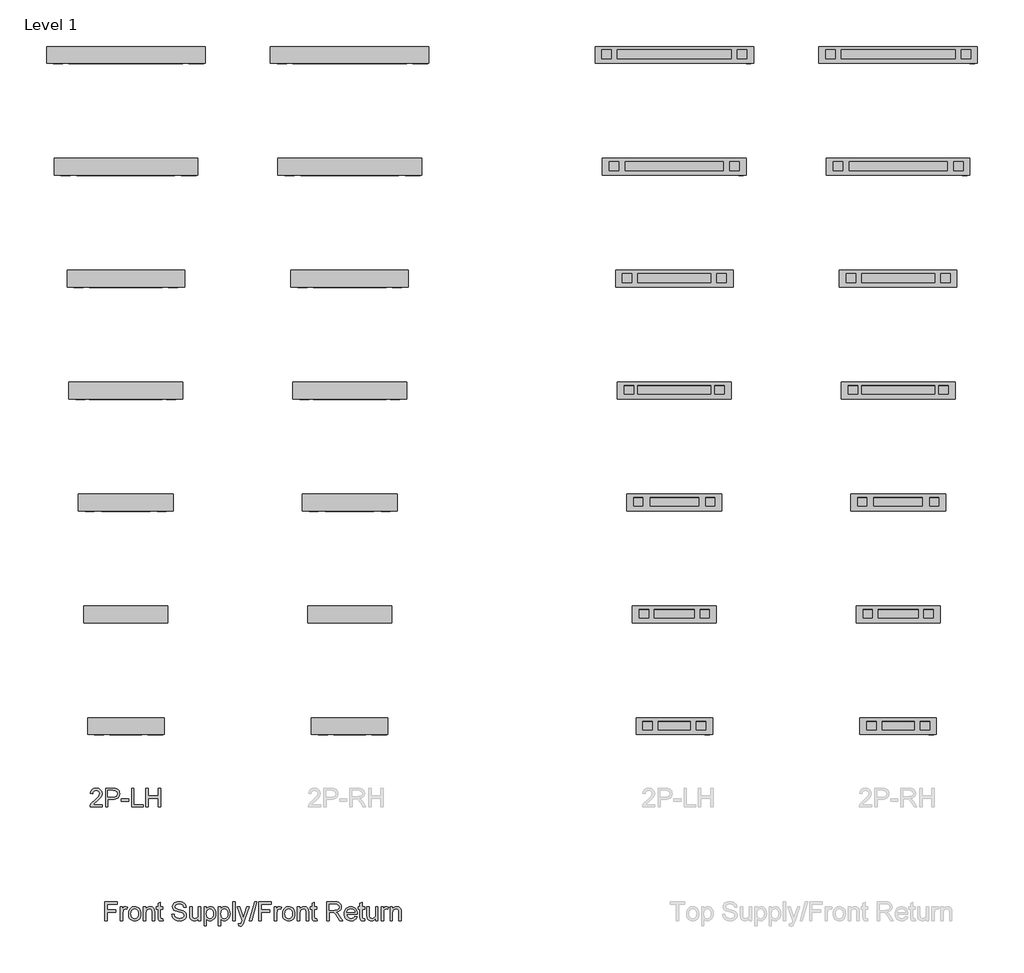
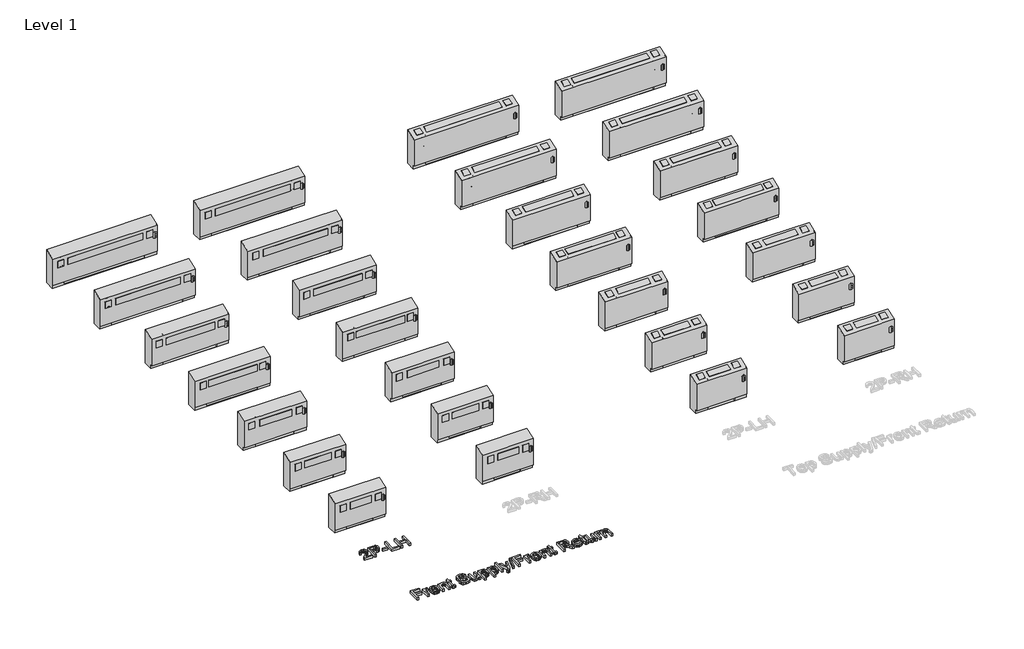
# One storey, part 1 of 2: 30 proxies.
"""IFC4 building model written with IfcOpenShell, lengths in millimetres."""

from ifc_helpers import new_model, si_unit, origin, origin_with_axes, place, context, project, spatial, polyline, outline, extrude, transform, mapped, element, save
from components import gsy_02_40d96003, gsy_02_d2016dfe, gsy_02_22f8a827, gsy_02_18074718, gsy_03_e8b588e9, gsy_03_2a40df72, gsy_03_d9d8826f, gsy_03_0272344f, gsy_04_6afe9540, gsy_04_bbb608ca, gsy_04_33b4b88a, gsy_04_61f203fc, gsy_06_d914853d, gsy_06_2d0563a4, gsy_06_7a3696df, gsy_06_8a783c55, gsy_08_512bcfd8, gsy_08_a798d953, gsy_08_d9f7d4bb, gsy_08_f1128186, gsy_10_ef9cb39d, gsy_10_e4929abb, gsy_10_18e08ca5, gsy_10_3fce5a1d, gsy_12_3b809d4b, gsy_12_c2b4ca95, gsy_12_80c8aa1c, gsy_12_d7ed669c

model = new_model("IFC4")

# Units and contexts
model_context = context("Model", 3, world=origin())
ifc_project = project(units=[si_unit("LENGTHUNIT", "METRE", prefix="MILLI")], contexts=[model_context])

# Site, building, storey
site = spatial("IfcSite", under=ifc_project)
building = spatial("IfcBuilding", under=site)
storey = spatial("IfcBuildingStorey", under=building, Name="Level 1", Elevation=0.0)

# Proxies
placement = place(None, origin())
element("IfcBuildingElementProxy", 1, Name="24\" Arial", ObjectType="24\" Arial", at=placement, inside=storey, context=model_context, shape_type="SweptSolid", body=[
    extrude(outline(polyline([(-19722.253563, -2284.938898), (-19722.253563, -2316.8337764), (-19889.701675, -2316.8337764), (-19886.2754673, -2294.8437528), (-19878.4107634, -2277.6582067), (-19866.9018205, -2260.9865918), (-19826.9709277, -2224.0146965), (-19792.5531145, -2193.4435801), (-19771.9024266, -2170.8773306), (-19761.5770826, -2152.5626934), (-19758.1353013, -2134.7464136), (-19761.3824117, -2118.7756138), (-19771.123743, -2105.4990592), (-19786.0978278, -2096.5519851), (-19805.0431987, -2093.5696271), (-19824.9385636, -2096.4819036), (-19840.3954322, -2105.2187331), (-19850.3703686, -2119.0948741), (-19853.8199367, -2137.425085), (-19885.7148152, -2133.4382252), (-19877.9824875, -2102.5867827), (-19861.2641515, -2080.0516806), (-19836.4319329, -2066.2689816), (-19804.3579572, -2061.6747487), (-19772.0503764, -2066.7829128), (-19747.2648788, -2082.1074052), (-19731.4965368, -2105.0007017), (-19726.2404228, -2132.8152784), (-19731.9092391, -2163.0593477), (-19750.7533812, -2194.3312793), (-19796.4465323, -2238.0310005), (-19833.1381014, -2268.7111326), (-19847.5281736, -2284.938898), (-19722.253563, -2284.938898)])), origin_with_axes(), (0.0, 0.0, 1.0), 50.8),
    extrude(outline(polyline([(-19678.3981051, -2316.8337764), (-19678.3981051, -2061.6747487), (-19583.834774, -2061.6747487), (-19545.7104271, -2064.1042414), (-19528.7117651, -2068.6439665), (-19514.7188215, -2076.0336734), (-19503.4512705, -2086.6081961), (-19494.6287858, -2100.7023685), (-19488.9288222, -2117.3272624), (-19487.0288343, -2135.4939498), (-19492.1603589, -2165.5667088), (-19507.5549328, -2190.6247456), (-19519.8834402, -2200.4906663), (-19536.3428639, -2207.5377525), (-19556.9332038, -2211.7660042), (-19581.6544601, -2213.1754214), (-19646.5032266, -2213.1754214), (-19646.5032266, -2316.8337764), (-19678.3981051, -2316.8337764)]), holes=[polyline([(-19646.5032266, -2181.2805429), (-19579.7856195, -2181.2805429), (-19551.5038327, -2178.3526928), (-19532.8154274, -2169.5691422), (-19522.3966414, -2155.4749699), (-19518.9237127, -2136.6152541), (-19520.9716505, -2122.2874767), (-19527.1154638, -2110.2023079), (-19536.5920426, -2101.107284), (-19548.6382773, -2095.7499411), (-19580.5331557, -2093.5696271), (-19646.5032266, -2093.5696271), (-19646.5032266, -2181.2805429)])]), origin_with_axes(), (0.0, 0.0, 1.0), 50.8),
    extrude(outline(polyline([(-19463.1076754, -2241.0834401), (-19463.1076754, -2209.1885616), (-19363.4361802, -2209.1885616), (-19363.4361802, -2241.0834401), (-19463.1076754, -2241.0834401)])), origin_with_axes(), (0.0, 0.0, 1.0), 50.8),
    extrude(outline(polyline([(-19323.5675821, -2316.8337764), (-19323.5675821, -2061.6747487), (-19291.6727036, -2061.6747487), (-19291.6727036, -2284.938898), (-19164.0931897, -2284.938898), (-19164.0931897, -2316.8337764), (-19323.5675821, -2316.8337764)])), origin_with_axes(), (0.0, 0.0, 1.0), 50.8),
    extrude(outline(polyline([(-19128.2114515, -2316.8337764), (-19128.2114515, -2061.6747487), (-19096.316573, -2061.6747487), (-19096.316573, -2165.3331037), (-18960.7633395, -2165.3331037), (-18960.7633395, -2061.6747487), (-18928.868461, -2061.6747487), (-18928.868461, -2316.8337764), (-18960.7633395, -2316.8337764), (-18960.7633395, -2197.2279822), (-19096.316573, -2197.2279822), (-19096.316573, -2316.8337764), (-19128.2114515, -2316.8337764)])), origin_with_axes(), (0.0, 0.0, 1.0), 50.8),
])
element("IfcBuildingElementProxy", 2, Name="24\" Arial", ObjectType="24\" Arial", at=placement, inside=storey, context=model_context, shape_type="SweptSolid", body=[
    extrude(outline(polyline([(-19688.2981561, -3865.3936295), (-19688.2981561, -3610.2346017), (-19516.8631843, -3610.2346017), (-19516.8631843, -3642.1294801), (-19656.4032777, -3642.1294801), (-19656.4032777, -3717.8798165), (-19536.7974834, -3717.8798165), (-19536.7974834, -3749.774695), (-19656.4032777, -3749.774695), (-19656.4032777, -3865.3936295), (-19688.2981561, -3865.3936295)])), origin_with_axes(), (0.0, 0.0, 1.0), 50.8),
    extrude(outline(polyline([(-19476.9945863, -3865.3936295), (-19476.9945863, -3678.0112184), (-19449.0865676, -3678.0112184), (-19449.0865676, -3705.732353), (-19438.7767973, -3689.6603244), (-19429.2768579, -3680.1915324), (-19419.7457712, -3675.5661521), (-19409.3425589, -3674.0243586), (-19393.4574143, -3676.4849987), (-19377.323091, -3683.8669188), (-19387.9754821, -3712.460179), (-19410.4015685, -3705.9192371), (-19419.9248684, -3707.4921779), (-19428.4358797, -3712.2110002), (-19435.3116555, -3719.7175097), (-19439.929249, -3729.6535119), (-19445.0997078, -3766.9057332), (-19445.0997078, -3865.3936295), (-19476.9945863, -3865.3936295)])), origin_with_axes(), (0.0, 0.0, 1.0), 50.8),
    extrude(outline(polyline([(-19365.3625116, -3771.7024239), (-19363.6377275, -3747.4347509), (-19358.4633753, -3726.523204), (-19349.8394549, -3708.9677832), (-19337.7659664, -3694.7684886), (-19312.1939984, -3679.2103911), (-19281.5761609, -3674.0243586), (-19263.9798593, -3675.6031395), (-19248.0694075, -3680.3394823), (-19233.8448056, -3688.2333868), (-19221.3060537, -3699.2848532), (-19211.072205, -3713.1201133), (-19203.7623131, -3729.365399), (-19199.376378, -3748.0207103), (-19197.9143996, -3769.0860472), (-19200.499629, -3801.3079728), (-19208.2553172, -3825.8365048), (-19220.9556461, -3844.2056499), (-19238.3747972, -3857.9494147), (-19259.0644193, -3866.5227206), (-19281.5761609, -3869.3804893), (-19299.4294282, -3867.8075485), (-19315.4878298, -3863.0887261), (-19329.7513659, -3855.2240222), (-19342.2200363, -3844.2134367), (-19352.3448692, -3830.2438537), (-19359.5768928, -3813.5021573), (-19363.9161069, -3793.9883473), (-19365.3625116, -3771.7024239)]), holes=[polyline([(-19333.4676331, -3771.6401293), (-19329.7766731, -3800.5059287), (-19318.7037929, -3821.0709614), (-19302.0399648, -3833.3819484), (-19281.5761609, -3837.4856108), (-19261.2057991, -3833.3585879), (-19244.5731183, -3820.9775194), (-19233.5002381, -3800.1399474), (-19229.8092781, -3770.6434143), (-19233.5235987, -3742.6185931), (-19244.6665603, -3722.3338865), (-19261.3226016, -3710.0228994), (-19281.5761609, -3705.9192371), (-19302.0399648, -3710.0073258), (-19318.7037929, -3722.2715918), (-19329.7766731, -3742.7899035), (-19333.4676331, -3771.6401293)])]), origin_with_axes(), (0.0, 0.0, 1.0), 50.8),
    extrude(outline(polyline([(-19162.0326613, -3865.3936295), (-19162.0326613, -3678.0112184), (-19130.1377829, -3678.0112184), (-19130.1377829, -3704.1749859), (-19119.0571159, -3690.9840865), (-19105.7494139, -3681.5620154), (-19090.2146769, -3675.9087728), (-19072.452905, -3674.0243586), (-19056.731284, -3675.5427916), (-19042.333425, -3680.0980904), (-19030.3261246, -3687.121816), (-19021.7761791, -3696.0455296), (-19012.2139451, -3719.4994783), (-19010.5319886, -3750.3353472), (-19010.5319886, -3865.3936295), (-19042.4268671, -3865.3936295), (-19042.4268671, -3754.6336804), (-19046.1022535, -3726.4141883), (-19051.1870571, -3718.0121927), (-19059.0906952, -3711.4946114), (-19080.9872768, -3705.9192371), (-19099.6678953, -3709.049545), (-19115.591974, -3718.4404687), (-19126.5013307, -3736.5837955), (-19130.1377829, -3765.971313), (-19130.1377829, -3865.3936295), (-19162.0326613, -3865.3936295)])), origin_with_axes(), (0.0, 0.0, 1.0), 50.8),
    extrude(outline(polyline([(-18898.8999139, -3838.7937992), (-18894.9130541, -3866.3280497), (-18918.7719183, -3869.3804893), (-18934.080837, -3868.0567272), (-18945.496338, -3864.0854411), (-18958.8274004, -3850.1937264), (-18962.6896709, -3814.0005147), (-18962.6896709, -3709.9060969), (-18986.6108297, -3709.9060969), (-18986.6108297, -3678.0112184), (-18962.6896709, -3678.0112184), (-18962.6896709, -3632.473804), (-18930.7947924, -3613.723104), (-18930.7947924, -3678.0112184), (-18898.8999139, -3678.0112184), (-18898.8999139, -3709.9060969), (-18930.7947924, -3709.9060969), (-18930.7947924, -3813.0660945), (-18929.1128359, -3829.5118912), (-18923.662051, -3835.3364442), (-18912.7916286, -3837.4856108), (-18898.8999139, -3838.7937992)])), origin_with_axes(), (0.0, 0.0, 1.0), 50.8),
    extrude(outline(polyline([(-18775.3072599, -3777.6827137), (-18743.4123814, -3777.6827137), (-18739.7525687, -3795.3821909), (-18733.1337584, -3809.6087395), (-18722.8084145, -3820.899651), (-18708.0290006, -3829.7922173), (-18689.9635421, -3835.5622624), (-18669.7800643, -3837.4856108), (-18652.0105055, -3836.0294725), (-18636.4524081, -3831.6610578), (-18623.8455213, -3824.7463478), (-18614.9295946, -3815.6513239), (-18609.6267595, -3805.2091774), (-18607.8591479, -3794.2530997), (-18613.1541961, -3774.349948), (-18621.2213577, -3766.4774573), (-18634.8327463, -3759.8664339), (-18681.2734336, -3747.6878231), (-18731.2649179, -3731.9584152), (-18747.1422756, -3721.2281558), (-18758.394253, -3708.2241404), (-18765.0987184, -3693.2266951), (-18767.3335402, -3676.516146), (-18764.5692136, -3657.8355275), (-18756.2762337, -3640.4163763), (-18742.672632, -3625.6525361), (-18723.9764398, -3614.9378504), (-18701.5347797, -3608.420269), (-18676.6947743, -3606.2477419), (-18649.7834706, -3608.5214978), (-18626.2360798, -3615.3427658), (-18606.8935803, -3626.5713827), (-18592.5969502, -3642.0671855), (-18583.5486472, -3660.8646065), (-18579.9511292, -3681.9980782), (-18611.8460077, -3681.9980782), (-18617.701708, -3662.9670521), (-18629.9114662, -3649.2310742), (-18648.9892133, -3640.9147338), (-18675.4488806, -3638.1426203), (-18702.5314947, -3640.8835865), (-18721.1108843, -3649.1064848), (-18731.8567174, -3661.2072273), (-18735.4386618, -3675.5817257), (-18732.9001534, -3687.8382049), (-18725.2846282, -3697.6963387), (-18707.2814644, -3706.5110366), (-18673.2062719, -3715.5126185), (-18616.7672878, -3731.5223524), (-18598.5850267, -3743.0935901), (-18585.9002716, -3757.3746465), (-18578.4482699, -3774.209785), (-18575.9642694, -3793.4432688), (-18578.8220381, -3813.1050286), (-18587.395344, -3831.5987631), (-18601.3337797, -3847.515055), (-18620.2869374, -3859.4444871), (-18643.0790051, -3866.8964887), (-18668.5341706, -3869.3804893), (-18699.7827417, -3866.7018178), (-18725.5026596, -3858.6658035), (-18745.989824, -3845.241299), (-18761.5401346, -3826.3971569), (-18771.5228578, -3803.4415657), (-18775.3072599, -3777.6827137)])), origin_with_axes(), (0.0, 0.0, 1.0), 50.8),
    extrude(outline(polyline([(-18412.5030172, -3865.3936295), (-18412.5030172, -3833.1872776), (-18424.0431075, -3849.0218077), (-18437.4831857, -3860.3321863), (-18452.8232518, -3867.1184135), (-18470.0633057, -3869.3804893), (-18485.5980427, -3867.7919748), (-18500.0581963, -3863.0264314), (-18512.1900861, -3855.8625427), (-18520.7400316, -3847.0789922), (-18530.239971, -3823.5938961), (-18532.1088115, -3793.9416263), (-18532.1088115, -3678.0112184), (-18500.213933, -3678.0112184), (-18500.213933, -3778.9286073), (-18498.2827978, -3811.4464327), (-18493.634057, -3822.2934946), (-18485.6681242, -3830.5397535), (-18474.9145043, -3835.7491465), (-18461.9027021, -3837.4856108), (-18448.1433636, -3835.7102123), (-18435.2717244, -3830.3840168), (-18424.6582675, -3821.9975949), (-18417.673476, -3811.0415172), (-18413.7956319, -3796.0362851), (-18412.5030172, -3775.5023997), (-18412.5030172, -3678.0112184), (-18380.6081388, -3678.0112184), (-18380.6081388, -3865.3936295), (-18412.5030172, -3865.3936295)])), origin_with_axes(), (0.0, 0.0, 1.0), 50.8),
    extrude(outline(polyline([(-18336.7526809, -3937.157106), (-18336.7526809, -3678.0112184), (-18304.8578024, -3678.0112184), (-18304.8578024, -3709.2831501), (-18294.4545901, -3693.8574288), (-18282.8054841, -3682.8390565), (-18269.2252428, -3676.2280331), (-18253.0286249, -3674.0243586), (-18231.4590904, -3677.1079455), (-18212.5993746, -3686.3587062), (-18197.2437349, -3701.2159884), (-18186.1864284, -3721.1191401), (-18179.5053235, -3744.6198098), (-18177.2782885, -3770.2696462), (-18179.7934364, -3797.5469312), (-18187.33888, -3821.943087), (-18199.6732276, -3842.2200068), (-18216.5550871, -3857.1395838), (-18236.2168469, -3866.3202629), (-18256.8908953, -3869.3804893), (-18271.5535067, -3867.3325515), (-18284.6431773, -3861.1887382), (-18304.8578024, -3840.4757556), (-18304.8578024, -3937.157106), (-18336.7526809, -3937.157106)]), holes=[polyline([(-18304.8578024, -3773.1974964), (-18301.4082342, -3801.7907566), (-18291.0595298, -3821.7873503), (-18275.7895452, -3833.5610457), (-18257.5761368, -3837.4856108), (-18239.0668287, -3833.4208826), (-18223.4075024, -3821.2266981), (-18212.7317508, -3800.4981419), (-18209.173167, -3770.8302984), (-18212.6460956, -3742.3927749), (-18223.0648816, -3722.1158551), (-18238.3115057, -3709.9683916), (-18256.2679485, -3705.9192371), (-18274.2944728, -3710.2253572), (-18290.1251095, -3723.1437174), (-18301.1746292, -3744.2694022), (-18304.8578024, -3773.1974964)])]), origin_with_axes(), (0.0, 0.0, 1.0), 50.8),
    extrude(outline(polyline([(-18141.3965502, -3937.157106), (-18141.3965502, -3678.0112184), (-18109.5016717, -3678.0112184), (-18109.5016717, -3709.2831501), (-18099.0984594, -3693.8574288), (-18087.4493534, -3682.8390565), (-18073.8691122, -3676.2280331), (-18057.6724942, -3674.0243586), (-18036.1029597, -3677.1079455), (-18017.243244, -3686.3587062), (-18001.8876042, -3701.2159884), (-17990.8302977, -3721.1191401), (-17984.1491928, -3744.6198098), (-17981.9221579, -3770.2696462), (-17984.4373057, -3797.5469312), (-17991.9827494, -3821.943087), (-18004.3170969, -3842.2200068), (-18021.1989564, -3857.1395838), (-18040.8607162, -3866.3202629), (-18061.5347647, -3869.3804893), (-18076.197376, -3867.3325515), (-18089.2870466, -3861.1887382), (-18109.5016717, -3840.4757556), (-18109.5016717, -3937.157106), (-18141.3965502, -3937.157106)]), holes=[polyline([(-18109.5016717, -3773.1974964), (-18106.0521036, -3801.7907566), (-18095.7033991, -3821.7873503), (-18080.4334146, -3833.5610457), (-18062.2200062, -3837.4856108), (-18043.7106981, -3833.4208826), (-18028.0513717, -3821.2266981), (-18017.3756202, -3800.4981419), (-18013.8170363, -3770.8302984), (-18017.289965, -3742.3927749), (-18027.708751, -3722.1158551), (-18042.955375, -3709.9683916), (-18060.9118178, -3705.9192371), (-18078.9383422, -3710.2253572), (-18094.7689789, -3723.1437174), (-18105.8184985, -3744.2694022), (-18109.5016717, -3773.1974964)])]), origin_with_axes(), (0.0, 0.0, 1.0), 50.8),
    extrude(outline(polyline([(-17946.0404196, -3865.3936295), (-17946.0404196, -3610.2346017), (-17914.1455411, -3610.2346017), (-17914.1455411, -3865.3936295), (-17946.0404196, -3865.3936295)])), origin_with_axes(), (0.0, 0.0, 1.0), 50.8),
    extrude(outline(polyline([(-17866.3032234, -3937.157106), (-17870.2900832, -3906.4458265), (-17854.0934652, -3909.2490874), (-17838.9558569, -3905.7294377), (-17829.6739489, -3895.9180249), (-17820.9526931, -3872.4329288), (-17818.4609057, -3864.7083879), (-17886.2375224, -3678.0112184), (-17852.5983928, -3678.0112184), (-17816.6543598, -3782.0433416), (-17804.1331282, -3823.6561908), (-17791.6118967, -3786.902327), (-17754.6711487, -3678.0112184), (-17721.2811978, -3678.0112184), (-17786.5037325, -3869.8788467), (-17803.4478867, -3911.491696), (-17812.1224215, -3924.7760375), (-17821.949408, -3933.9800771), (-17833.364909, -3939.3529936), (-17846.8049871, -3941.1439658), (-17866.3032234, -3937.157106)])), origin_with_axes(), (0.0, 0.0, 1.0), 50.8),
    extrude(outline(polyline([(-17718.7894105, -3865.3936295), (-17647.0259339, -3610.2346017), (-17618.2457896, -3610.2346017), (-17690.0092662, -3865.3936295), (-17718.7894105, -3865.3936295)])), origin_with_axes(), (0.0, 0.0, 1.0), 50.8),
    extrude(outline(polyline([(-17591.2098966, -3865.3936295), (-17591.2098966, -3610.2346017), (-17419.7749248, -3610.2346017), (-17419.7749248, -3642.1294801), (-17559.3150181, -3642.1294801), (-17559.3150181, -3717.8798165), (-17439.7092238, -3717.8798165), (-17439.7092238, -3749.774695), (-17559.3150181, -3749.774695), (-17559.3150181, -3865.3936295), (-17591.2098966, -3865.3936295)])), origin_with_axes(), (0.0, 0.0, 1.0), 50.8),
    extrude(outline(polyline([(-17379.9063267, -3865.3936295), (-17379.9063267, -3678.0112184), (-17351.998308, -3678.0112184), (-17351.998308, -3705.732353), (-17341.6885377, -3689.6603244), (-17332.1885983, -3680.1915324), (-17322.6575116, -3675.5661521), (-17312.2542993, -3674.0243586), (-17296.3691547, -3676.4849987), (-17280.2348315, -3683.8669188), (-17290.8872225, -3712.460179), (-17313.3133089, -3705.9192371), (-17322.8366088, -3707.4921779), (-17331.3476201, -3712.2110002), (-17338.2233959, -3719.7175097), (-17342.8409894, -3729.6535119), (-17348.0114482, -3766.9057332), (-17348.0114482, -3865.3936295), (-17379.9063267, -3865.3936295)])), origin_with_axes(), (0.0, 0.0, 1.0), 50.8),
    extrude(outline(polyline([(-17268.274252, -3771.7024239), (-17266.549468, -3747.4347509), (-17261.3751157, -3726.523204), (-17252.7511953, -3708.9677832), (-17240.6777068, -3694.7684886), (-17215.1057388, -3679.2103911), (-17184.4879014, -3674.0243586), (-17166.8915997, -3675.6031395), (-17150.9811479, -3680.3394823), (-17136.7565461, -3688.2333868), (-17124.2177941, -3699.2848532), (-17113.9839454, -3713.1201133), (-17106.6740536, -3729.365399), (-17102.2881184, -3748.0207103), (-17100.8261401, -3769.0860472), (-17103.4113695, -3801.3079728), (-17111.1670577, -3825.8365048), (-17123.8673865, -3844.2056499), (-17141.2865376, -3857.9494147), (-17161.9761597, -3866.5227206), (-17184.4879014, -3869.3804893), (-17202.3411686, -3867.8075485), (-17218.3995702, -3863.0887261), (-17232.6631063, -3855.2240222), (-17245.1317767, -3844.2134367), (-17255.2566097, -3830.2438537), (-17262.4886332, -3813.5021573), (-17266.8278473, -3793.9883473), (-17268.274252, -3771.7024239)]), holes=[polyline([(-17236.3793736, -3771.6401293), (-17232.6884135, -3800.5059287), (-17221.6155333, -3821.0709614), (-17204.9517052, -3833.3819484), (-17184.4879014, -3837.4856108), (-17164.1175395, -3833.3585879), (-17147.4848588, -3820.9775194), (-17136.4119786, -3800.1399474), (-17132.7210185, -3770.6434143), (-17136.4353391, -3742.6185931), (-17147.5783008, -3722.3338865), (-17164.2343421, -3710.0228994), (-17184.4879014, -3705.9192371), (-17204.9517052, -3710.0073258), (-17221.6155333, -3722.2715918), (-17232.6884135, -3742.7899035), (-17236.3793736, -3771.6401293)])]), origin_with_axes(), (0.0, 0.0, 1.0), 50.8),
    extrude(outline(polyline([(-17064.9444018, -3865.3936295), (-17064.9444018, -3678.0112184), (-17033.0495233, -3678.0112184), (-17033.0495233, -3704.1749859), (-17021.9688563, -3690.9840865), (-17008.6611543, -3681.5620154), (-16993.1264174, -3675.9087728), (-16975.3646454, -3674.0243586), (-16959.6430244, -3675.5427916), (-16945.2451655, -3680.0980904), (-16933.237865, -3687.121816), (-16924.6879196, -3696.0455296), (-16915.1256855, -3719.4994783), (-16913.443729, -3750.3353472), (-16913.443729, -3865.3936295), (-16945.3386075, -3865.3936295), (-16945.3386075, -3754.6336804), (-16949.0139939, -3726.4141883), (-16954.0987975, -3718.0121927), (-16962.0024356, -3711.4946114), (-16983.8990172, -3705.9192371), (-17002.5796357, -3709.049545), (-17018.5037145, -3718.4404687), (-17029.4130711, -3736.5837955), (-17033.0495233, -3765.971313), (-17033.0495233, -3865.3936295), (-17064.9444018, -3865.3936295)])), origin_with_axes(), (0.0, 0.0, 1.0), 50.8),
    extrude(outline(polyline([(-16801.8116544, -3838.7937992), (-16797.8247946, -3866.3280497), (-16821.6836587, -3869.3804893), (-16836.9925775, -3868.0567272), (-16848.4080784, -3864.0854411), (-16861.7391409, -3850.1937264), (-16865.6014113, -3814.0005147), (-16865.6014113, -3709.9060969), (-16889.5225702, -3709.9060969), (-16889.5225702, -3678.0112184), (-16865.6014113, -3678.0112184), (-16865.6014113, -3632.473804), (-16833.7065328, -3613.723104), (-16833.7065328, -3678.0112184), (-16801.8116544, -3678.0112184), (-16801.8116544, -3709.9060969), (-16833.7065328, -3709.9060969), (-16833.7065328, -3813.0660945), (-16832.0245764, -3829.5118912), (-16826.5737915, -3835.3364442), (-16815.703369, -3837.4856108), (-16801.8116544, -3838.7937992)])), origin_with_axes(), (0.0, 0.0, 1.0), 50.8),
    extrude(outline(polyline([(-16666.2584209, -3865.3936295), (-16666.2584209, -3610.2346017), (-16556.3083027, -3610.2346017), (-16526.7572617, -3611.9554923), (-16505.2578087, -3617.1181643), (-16489.5439746, -3626.649251), (-16477.3497901, -3641.475386), (-16469.5240203, -3659.8601047), (-16466.9154304, -3680.066943), (-16471.2371241, -3705.2028482), (-16484.2022054, -3726.0404202), (-16506.2000158, -3741.3181916), (-16537.6198973, -3749.774695), (-16519.4921441, -3763.4172309), (-16493.6398501, -3796.2465296), (-16451.0925805, -3865.3936295), (-16488.1579178, -3865.3936295), (-16521.3609847, -3812.5054423), (-16545.3444382, -3777.4958296), (-16562.1951504, -3760.9565909), (-16577.3639061, -3754.8828591), (-16595.8654274, -3753.7615548), (-16634.3635424, -3753.7615548), (-16634.3635424, -3865.3936295), (-16666.2584209, -3865.3936295)]), holes=[polyline([(-16634.3635424, -3721.8666763), (-16562.9738339, -3721.8666763), (-16526.5625908, -3717.3503117), (-16514.5864377, -3711.4790377), (-16505.8807556, -3702.8979449), (-16500.5779206, -3692.5180931), (-16498.8103089, -3681.250542), (-16502.1820087, -3665.6924446), (-16512.2971081, -3653.1556393), (-16529.7006856, -3644.8860199), (-16554.9378196, -3642.1294801), (-16634.3635424, -3642.1294801), (-16634.3635424, -3721.8666763)])]), origin_with_axes(), (0.0, 0.0, 1.0), 50.8),
    extrude(outline(polyline([(-16283.8936473, -3809.5775921), (-16252.6217157, -3813.5644519), (-16263.8892667, -3837.1274164), (-16281.8690701, -3854.7412384), (-16306.1562102, -3865.7206765), (-16336.3457717, -3869.3804893), (-16356.1360143, -3867.8017084), (-16373.7693034, -3863.0653656), (-16389.2456391, -3855.1714611), (-16402.5650213, -3844.1199947), (-16413.2758136, -3830.2185465), (-16420.9263796, -3813.7746965), (-16425.5167191, -3794.7884447), (-16427.0468323, -3773.2597911), (-16425.5011455, -3751.0011216), (-16420.8640849, -3731.3821894), (-16413.1356506, -3714.4029944), (-16402.3158426, -3700.0635367), (-16389.0315011, -3688.6713963), (-16373.9094664, -3680.5341532), (-16356.9497386, -3675.6518073), (-16338.1523175, -3674.0243586), (-16319.9603229, -3675.6479138), (-16303.5086861, -3680.5185795), (-16288.797407, -3688.6363556), (-16275.8264857, -3700.0012421), (-16265.238336, -3714.3095524), (-16257.675372, -3731.2576), (-16253.1375935, -3750.8453849), (-16251.6250007, -3773.072907), (-16251.8118848, -3781.6695735), (-16395.1519538, -3781.6695735), (-16389.6310874, -3805.5440113), (-16376.8061693, -3823.0955387), (-16358.2968611, -3833.8880928), (-16335.7228248, -3837.4856108), (-16318.7475233, -3835.819228), (-16304.4508932, -3830.8200795), (-16292.8329345, -3822.1766921), (-16283.8936473, -3809.5775921)]), holes=[polyline([(-16395.1519538, -3749.774695), (-16283.5198792, -3749.774695), (-16287.8337861, -3732.9239828), (-16296.2902895, -3720.8699614), (-16314.8852528, -3709.6569182), (-16338.2769069, -3705.9192371), (-16359.7763599, -3708.9015951), (-16377.5537055, -3717.8486692), (-16389.9114135, -3731.7948917), (-16395.1519538, -3749.774695)])]), origin_with_axes(), (0.0, 0.0, 1.0), 50.8),
    extrude(outline(polyline([(-16151.9535055, -3838.7937992), (-16147.9666457, -3866.3280497), (-16171.8255099, -3869.3804893), (-16187.1344286, -3868.0567272), (-16198.5499295, -3864.0854411), (-16211.880992, -3850.1937264), (-16215.7432624, -3814.0005147), (-16215.7432624, -3709.9060969), (-16239.6644213, -3709.9060969), (-16239.6644213, -3678.0112184), (-16215.7432624, -3678.0112184), (-16215.7432624, -3632.473804), (-16183.848384, -3613.723104), (-16183.848384, -3678.0112184), (-16151.9535055, -3678.0112184), (-16151.9535055, -3709.9060969), (-16183.848384, -3709.9060969), (-16183.848384, -3813.0660945), (-16182.1664275, -3829.5118912), (-16176.7156426, -3835.3364442), (-16165.8452201, -3837.4856108), (-16151.9535055, -3838.7937992)])), origin_with_axes(), (0.0, 0.0, 1.0), 50.8),
    extrude(outline(polyline([(-16000.4528327, -3865.3936295), (-16000.4528327, -3833.1872776), (-16011.9929231, -3849.0218077), (-16025.4330012, -3860.3321863), (-16040.7730673, -3867.1184135), (-16058.0131212, -3869.3804893), (-16073.5478582, -3867.7919748), (-16088.0080118, -3863.0264314), (-16100.1399016, -3855.8625427), (-16108.6898471, -3847.0789922), (-16118.1897865, -3823.5938961), (-16120.058627, -3793.9416263), (-16120.058627, -3678.0112184), (-16088.1637485, -3678.0112184), (-16088.1637485, -3778.9286073), (-16086.2326133, -3811.4464327), (-16081.5838725, -3822.2934946), (-16073.6179397, -3830.5397535), (-16062.8643198, -3835.7491465), (-16049.8525176, -3837.4856108), (-16036.0931791, -3835.7102123), (-16023.2215399, -3830.3840168), (-16012.6080831, -3821.9975949), (-16005.6232916, -3811.0415172), (-16001.7454475, -3796.0362851), (-16000.4528327, -3775.5023997), (-16000.4528327, -3678.0112184), (-15968.5579543, -3678.0112184), (-15968.5579543, -3865.3936295), (-16000.4528327, -3865.3936295)])), origin_with_axes(), (0.0, 0.0, 1.0), 50.8),
    extrude(outline(polyline([(-15924.7024964, -3865.3936295), (-15924.7024964, -3678.0112184), (-15896.7944777, -3678.0112184), (-15896.7944777, -3705.732353), (-15886.4847074, -3689.6603244), (-15876.984768, -3680.1915324), (-15867.4536813, -3675.5661521), (-15857.050469, -3674.0243586), (-15841.1653244, -3676.4849987), (-15825.0310012, -3683.8669188), (-15835.6833922, -3712.460179), (-15858.1094786, -3705.9192371), (-15867.6327785, -3707.4921779), (-15876.1437898, -3712.2110002), (-15883.0195656, -3719.7175097), (-15887.6371591, -3729.6535119), (-15892.8076179, -3766.9057332), (-15892.8076179, -3865.3936295), (-15924.7024964, -3865.3936295)])), origin_with_axes(), (0.0, 0.0, 1.0), 50.8),
    extrude(outline(polyline([(-15805.0967021, -3865.3936295), (-15805.0967021, -3678.0112184), (-15773.2018236, -3678.0112184), (-15773.2018236, -3704.1749859), (-15762.1211566, -3690.9840865), (-15748.8134546, -3681.5620154), (-15733.2787177, -3675.9087728), (-15715.5169458, -3674.0243586), (-15699.7953248, -3675.5427916), (-15685.3974658, -3680.0980904), (-15673.3901654, -3687.121816), (-15664.8402199, -3696.0455296), (-15655.2779858, -3719.4994783), (-15653.5960294, -3750.3353472), (-15653.5960294, -3865.3936295), (-15685.4909078, -3865.3936295), (-15685.4909078, -3754.6336804), (-15689.1662942, -3726.4141883), (-15694.2510978, -3718.0121927), (-15702.1547359, -3711.4946114), (-15724.0513175, -3705.9192371), (-15742.7319361, -3709.049545), (-15758.6560148, -3718.4404687), (-15769.5653714, -3736.5837955), (-15773.2018236, -3765.971313), (-15773.2018236, -3865.3936295), (-15805.0967021, -3865.3936295)])), origin_with_axes(), (0.0, 0.0, 1.0), 50.8),
])
gsy_02_shape = gsy_02_40d96003(model_context)
element("IfcBuildingElementProxy", 3, Name="Vertical_Fan_Coil_Unit_-_GSY_-_IEC_-_2-Pipe_FS-FR_RH_2022 : GSY 02", ObjectType="Vertical_Fan_Coil_Unit_-_GSY_-_IEC_-_2-Pipe_FS-FR_RH_2022 : GSY 02", at=placement, inside=storey, context=model_context, shape_type="MappedRepresentation", body=[
    mapped(gsy_02_shape, transform((-16506.2915851, -1346.7031597, 0.0), x_axis=(1.0, 0.0, 0.0), y_axis=(0.0, 1.0, 0.0), z_axis=(0.0, 0.0, 1.0))),
])
gsy_02_2_shape = gsy_02_d2016dfe(model_context)
element("IfcBuildingElementProxy", 4, Name="Vertical_Fan_Coil_Unit_-_GSY_-_IEC_-_2-Pipe_TS-FR_LH_2022 : GSY 02", ObjectType="Vertical_Fan_Coil_Unit_-_GSY_-_IEC_-_2-Pipe_TS-FR_LH_2022 : GSY 02", at=placement, inside=storey, context=model_context, shape_type="MappedRepresentation", body=[
    mapped(gsy_02_2_shape, transform((-12086.6915851, -1346.7031597, 0.0), x_axis=(1.0, 0.0, 0.0), y_axis=(0.0, 1.0, 0.0), z_axis=(0.0, 0.0, 1.0))),
])
gsy_02_3_shape = gsy_02_22f8a827(model_context)
element("IfcBuildingElementProxy", 5, Name="Vertical_Fan_Coil_Unit_-_GSY_-_IEC_-_2-Pipe_TS-FR_RH_2022 : GSY 02", ObjectType="Vertical_Fan_Coil_Unit_-_GSY_-_IEC_-_2-Pipe_TS-FR_RH_2022 : GSY 02", at=placement, inside=storey, context=model_context, shape_type="MappedRepresentation", body=[
    mapped(gsy_02_3_shape, transform((-9038.6915851, -1346.7031597, 0.0), x_axis=(1.0, 0.0, 0.0), y_axis=(0.0, 1.0, 0.0), z_axis=(0.0, 0.0, 1.0))),
])
gsy_02_4_shape = gsy_02_18074718(model_context)
element("IfcBuildingElementProxy", 6, Name="Vertical_Fan_Coil_Unit_-_GSY_-_IEC_-_2-Pipe_FS-FR_LH_2022 : GSY 02", ObjectType="Vertical_Fan_Coil_Unit_-_GSY_-_IEC_-_2-Pipe_FS-FR_LH_2022 : GSY 02", at=placement, inside=storey, context=model_context, shape_type="MappedRepresentation", body=[
    mapped(gsy_02_4_shape, transform((-19554.2915851, -1346.7031597, 0.0), x_axis=(1.0, 0.0, 0.0), y_axis=(0.0, 1.0, 0.0), z_axis=(0.0, 0.0, 1.0))),
])
gsy_03_shape = gsy_03_e8b588e9(model_context)
element("IfcBuildingElementProxy", 7, Name="Vertical_Fan_Coil_Unit_-_GSY_-_IEC_-_2-Pipe_FS-FR_RH_2022 : GSY 03", ObjectType="Vertical_Fan_Coil_Unit_-_GSY_-_IEC_-_2-Pipe_FS-FR_RH_2022 : GSY 03", at=placement, inside=storey, context=model_context, shape_type="MappedRepresentation", body=[
    mapped(gsy_03_shape, transform((-16506.2915851, 177.2968403, 0.0), x_axis=(1.0, 0.0, 0.0), y_axis=(0.0, 1.0, 0.0), z_axis=(0.0, 0.0, 1.0))),
])
gsy_03_2_shape = gsy_03_2a40df72(model_context)
element("IfcBuildingElementProxy", 8, Name="Vertical_Fan_Coil_Unit_-_GSY_-_IEC_-_2-Pipe_TS-FR_LH_2022 : GSY 03", ObjectType="Vertical_Fan_Coil_Unit_-_GSY_-_IEC_-_2-Pipe_TS-FR_LH_2022 : GSY 03", at=placement, inside=storey, context=model_context, shape_type="MappedRepresentation", body=[
    mapped(gsy_03_2_shape, transform((-12086.6915851, 177.2968403, 0.0), x_axis=(1.0, 0.0, 0.0), y_axis=(0.0, 1.0, 0.0), z_axis=(0.0, 0.0, 1.0))),
])
gsy_03_3_shape = gsy_03_d9d8826f(model_context)
element("IfcBuildingElementProxy", 9, Name="Vertical_Fan_Coil_Unit_-_GSY_-_IEC_-_2-Pipe_TS-FR_RH_2022 : GSY 03", ObjectType="Vertical_Fan_Coil_Unit_-_GSY_-_IEC_-_2-Pipe_TS-FR_RH_2022 : GSY 03", at=placement, inside=storey, context=model_context, shape_type="MappedRepresentation", body=[
    mapped(gsy_03_3_shape, transform((-9038.6915851, 177.2968403, 0.0), x_axis=(1.0, 0.0, 0.0), y_axis=(0.0, 1.0, 0.0), z_axis=(0.0, 0.0, 1.0))),
])
gsy_03_4_shape = gsy_03_0272344f(model_context)
element("IfcBuildingElementProxy", 10, Name="Vertical_Fan_Coil_Unit_-_GSY_-_IEC_-_2-Pipe_FS-FR_LH_2022 : GSY 03", ObjectType="Vertical_Fan_Coil_Unit_-_GSY_-_IEC_-_2-Pipe_FS-FR_LH_2022 : GSY 03", at=placement, inside=storey, context=model_context, shape_type="MappedRepresentation", body=[
    mapped(gsy_03_4_shape, transform((-19554.2915851, 177.2968403, 0.0), x_axis=(1.0, 0.0, 0.0), y_axis=(0.0, 1.0, 0.0), z_axis=(0.0, 0.0, 1.0))),
])
gsy_04_shape = gsy_04_6afe9540(model_context)
element("IfcBuildingElementProxy", 11, Name="Vertical_Fan_Coil_Unit_-_GSY_-_IEC_-_2-Pipe_FS-FR_RH_2022 : GSY 04", ObjectType="Vertical_Fan_Coil_Unit_-_GSY_-_IEC_-_2-Pipe_FS-FR_RH_2022 : GSY 04", at=placement, inside=storey, context=model_context, shape_type="MappedRepresentation", body=[
    mapped(gsy_04_shape, transform((-16506.2915851, 1701.2968403, 0.0), x_axis=(1.0, 0.0, 0.0), y_axis=(0.0, 1.0, 0.0), z_axis=(0.0, 0.0, 1.0))),
])
gsy_04_2_shape = gsy_04_bbb608ca(model_context)
element("IfcBuildingElementProxy", 12, Name="Vertical_Fan_Coil_Unit_-_GSY_-_IEC_-_2-Pipe_TS-FR_LH_2022 : GSY 04", ObjectType="Vertical_Fan_Coil_Unit_-_GSY_-_IEC_-_2-Pipe_TS-FR_LH_2022 : GSY 04", at=placement, inside=storey, context=model_context, shape_type="MappedRepresentation", body=[
    mapped(gsy_04_2_shape, transform((-12086.6915851, 1701.2968403, 0.0), x_axis=(1.0, 0.0, 0.0), y_axis=(0.0, 1.0, 0.0), z_axis=(0.0, 0.0, 1.0))),
])
gsy_04_3_shape = gsy_04_33b4b88a(model_context)
element("IfcBuildingElementProxy", 13, Name="Vertical_Fan_Coil_Unit_-_GSY_-_IEC_-_2-Pipe_TS-FR_RH_2022 : GSY 04", ObjectType="Vertical_Fan_Coil_Unit_-_GSY_-_IEC_-_2-Pipe_TS-FR_RH_2022 : GSY 04", at=placement, inside=storey, context=model_context, shape_type="MappedRepresentation", body=[
    mapped(gsy_04_3_shape, transform((-9038.6915851, 1701.2968403, 0.0), x_axis=(1.0, 0.0, 0.0), y_axis=(0.0, 1.0, 0.0), z_axis=(0.0, 0.0, 1.0))),
])
gsy_04_4_shape = gsy_04_61f203fc(model_context)
element("IfcBuildingElementProxy", 14, Name="Vertical_Fan_Coil_Unit_-_GSY_-_IEC_-_2-Pipe_FS-FR_LH_2022 : GSY 04", ObjectType="Vertical_Fan_Coil_Unit_-_GSY_-_IEC_-_2-Pipe_FS-FR_LH_2022 : GSY 04", at=placement, inside=storey, context=model_context, shape_type="MappedRepresentation", body=[
    mapped(gsy_04_4_shape, transform((-19554.2915851, 1701.2968403, 0.0), x_axis=(1.0, 0.0, 0.0), y_axis=(0.0, 1.0, 0.0), z_axis=(0.0, 0.0, 1.0))),
])
gsy_06_shape = gsy_06_d914853d(model_context)
element("IfcBuildingElementProxy", 15, Name="Vertical_Fan_Coil_Unit_-_GSY_-_IEC_-_2-Pipe_FS-FR_RH_2022 : GSY 06", ObjectType="Vertical_Fan_Coil_Unit_-_GSY_-_IEC_-_2-Pipe_FS-FR_RH_2022 : GSY 06", at=placement, inside=storey, context=model_context, shape_type="MappedRepresentation", body=[
    mapped(gsy_06_shape, transform((-16506.2915851, 3225.2968403, 0.0), x_axis=(1.0, 0.0, 0.0), y_axis=(0.0, 1.0, 0.0), z_axis=(0.0, 0.0, 1.0))),
])
gsy_06_2_shape = gsy_06_2d0563a4(model_context)
element("IfcBuildingElementProxy", 16, Name="Vertical_Fan_Coil_Unit_-_GSY_-_IEC_-_2-Pipe_TS-FR_LH_2022 : GSY 06", ObjectType="Vertical_Fan_Coil_Unit_-_GSY_-_IEC_-_2-Pipe_TS-FR_LH_2022 : GSY 06", at=placement, inside=storey, context=model_context, shape_type="MappedRepresentation", body=[
    mapped(gsy_06_2_shape, transform((-12086.6915851, 3225.2968403, 0.0), x_axis=(1.0, 0.0, 0.0), y_axis=(0.0, 1.0, 0.0), z_axis=(0.0, 0.0, 1.0))),
])
gsy_06_3_shape = gsy_06_7a3696df(model_context)
element("IfcBuildingElementProxy", 17, Name="Vertical_Fan_Coil_Unit_-_GSY_-_IEC_-_2-Pipe_TS-FR_RH_2022 : GSY 06", ObjectType="Vertical_Fan_Coil_Unit_-_GSY_-_IEC_-_2-Pipe_TS-FR_RH_2022 : GSY 06", at=placement, inside=storey, context=model_context, shape_type="MappedRepresentation", body=[
    mapped(gsy_06_3_shape, transform((-9038.6915851, 3225.2968403, 0.0), x_axis=(1.0, 0.0, 0.0), y_axis=(0.0, 1.0, 0.0), z_axis=(0.0, 0.0, 1.0))),
])
gsy_06_4_shape = gsy_06_8a783c55(model_context)
element("IfcBuildingElementProxy", 18, Name="Vertical_Fan_Coil_Unit_-_GSY_-_IEC_-_2-Pipe_FS-FR_LH_2022 : GSY 06", ObjectType="Vertical_Fan_Coil_Unit_-_GSY_-_IEC_-_2-Pipe_FS-FR_LH_2022 : GSY 06", at=placement, inside=storey, context=model_context, shape_type="MappedRepresentation", body=[
    mapped(gsy_06_4_shape, transform((-19554.2915851, 3225.2968403, 0.0), x_axis=(1.0, 0.0, 0.0), y_axis=(0.0, 1.0, 0.0), z_axis=(0.0, 0.0, 1.0))),
])
gsy_08_shape = gsy_08_512bcfd8(model_context)
element("IfcBuildingElementProxy", 19, Name="Vertical_Fan_Coil_Unit_-_GSY_-_IEC_-_2-Pipe_FS-FR_RH_2022 : GSY 08", ObjectType="Vertical_Fan_Coil_Unit_-_GSY_-_IEC_-_2-Pipe_FS-FR_RH_2022 : GSY 08", at=placement, inside=storey, context=model_context, shape_type="MappedRepresentation", body=[
    mapped(gsy_08_shape, transform((-16506.2915851, 4749.2968403, 0.0), x_axis=(1.0, 0.0, 0.0), y_axis=(0.0, 1.0, 0.0), z_axis=(0.0, 0.0, 1.0))),
])
gsy_08_2_shape = gsy_08_a798d953(model_context)
element("IfcBuildingElementProxy", 20, Name="Vertical_Fan_Coil_Unit_-_GSY_-_IEC_-_2-Pipe_TS-FR_LH_2022 : GSY 08", ObjectType="Vertical_Fan_Coil_Unit_-_GSY_-_IEC_-_2-Pipe_TS-FR_LH_2022 : GSY 08", at=placement, inside=storey, context=model_context, shape_type="MappedRepresentation", body=[
    mapped(gsy_08_2_shape, transform((-12086.6915851, 4749.2968403, 0.0), x_axis=(1.0, 0.0, 0.0), y_axis=(0.0, 1.0, 0.0), z_axis=(0.0, 0.0, 1.0))),
])
gsy_08_3_shape = gsy_08_d9f7d4bb(model_context)
element("IfcBuildingElementProxy", 21, Name="Vertical_Fan_Coil_Unit_-_GSY_-_IEC_-_2-Pipe_TS-FR_RH_2022 : GSY 08", ObjectType="Vertical_Fan_Coil_Unit_-_GSY_-_IEC_-_2-Pipe_TS-FR_RH_2022 : GSY 08", at=placement, inside=storey, context=model_context, shape_type="MappedRepresentation", body=[
    mapped(gsy_08_3_shape, transform((-9038.6915851, 4749.2968403, 0.0), x_axis=(1.0, 0.0, 0.0), y_axis=(0.0, 1.0, 0.0), z_axis=(0.0, 0.0, 1.0))),
])
gsy_08_4_shape = gsy_08_f1128186(model_context)
element("IfcBuildingElementProxy", 22, Name="Vertical_Fan_Coil_Unit_-_GSY_-_IEC_-_2-Pipe_FS-FR_LH_2022 : GSY 08", ObjectType="Vertical_Fan_Coil_Unit_-_GSY_-_IEC_-_2-Pipe_FS-FR_LH_2022 : GSY 08", at=placement, inside=storey, context=model_context, shape_type="MappedRepresentation", body=[
    mapped(gsy_08_4_shape, transform((-19554.2915851, 4749.2968403, 0.0), x_axis=(1.0, 0.0, 0.0), y_axis=(0.0, 1.0, 0.0), z_axis=(0.0, 0.0, 1.0))),
])
gsy_10_shape = gsy_10_ef9cb39d(model_context)
element("IfcBuildingElementProxy", 23, Name="Vertical_Fan_Coil_Unit_-_GSY_-_IEC_-_2-Pipe_FS-FR_RH_2022 : GSY 10", ObjectType="Vertical_Fan_Coil_Unit_-_GSY_-_IEC_-_2-Pipe_FS-FR_RH_2022 : GSY 10", at=placement, inside=storey, context=model_context, shape_type="MappedRepresentation", body=[
    mapped(gsy_10_shape, transform((-16506.2915851, 6273.2968403, 0.0), x_axis=(1.0, 0.0, 0.0), y_axis=(0.0, 1.0, 0.0), z_axis=(0.0, 0.0, 1.0))),
])
gsy_10_2_shape = gsy_10_e4929abb(model_context)
element("IfcBuildingElementProxy", 24, Name="Vertical_Fan_Coil_Unit_-_GSY_-_IEC_-_2-Pipe_TS-FR_LH_2022 : GSY 10", ObjectType="Vertical_Fan_Coil_Unit_-_GSY_-_IEC_-_2-Pipe_TS-FR_LH_2022 : GSY 10", at=placement, inside=storey, context=model_context, shape_type="MappedRepresentation", body=[
    mapped(gsy_10_2_shape, transform((-12086.6915851, 6273.2968403, 0.0), x_axis=(1.0, 0.0, 0.0), y_axis=(0.0, 1.0, 0.0), z_axis=(0.0, 0.0, 1.0))),
])
gsy_10_3_shape = gsy_10_18e08ca5(model_context)
element("IfcBuildingElementProxy", 25, Name="Vertical_Fan_Coil_Unit_-_GSY_-_IEC_-_2-Pipe_TS-FR_RH_2022 : GSY 10", ObjectType="Vertical_Fan_Coil_Unit_-_GSY_-_IEC_-_2-Pipe_TS-FR_RH_2022 : GSY 10", at=placement, inside=storey, context=model_context, shape_type="MappedRepresentation", body=[
    mapped(gsy_10_3_shape, transform((-9038.6915851, 6273.2968403, 0.0), x_axis=(1.0, 0.0, 0.0), y_axis=(0.0, 1.0, 0.0), z_axis=(0.0, 0.0, 1.0))),
])
gsy_10_4_shape = gsy_10_3fce5a1d(model_context)
element("IfcBuildingElementProxy", 26, Name="Vertical_Fan_Coil_Unit_-_GSY_-_IEC_-_2-Pipe_FS-FR_LH_2022 : GSY 10", ObjectType="Vertical_Fan_Coil_Unit_-_GSY_-_IEC_-_2-Pipe_FS-FR_LH_2022 : GSY 10", at=placement, inside=storey, context=model_context, shape_type="MappedRepresentation", body=[
    mapped(gsy_10_4_shape, transform((-19554.2915851, 6273.2968403, 0.0), x_axis=(1.0, 0.0, 0.0), y_axis=(0.0, 1.0, 0.0), z_axis=(0.0, 0.0, 1.0))),
])
gsy_12_shape = gsy_12_3b809d4b(model_context)
element("IfcBuildingElementProxy", 27, Name="Vertical_Fan_Coil_Unit_-_GSY_-_IEC_-_2-Pipe_FS-FR_RH_2022 : GSY 12", ObjectType="Vertical_Fan_Coil_Unit_-_GSY_-_IEC_-_2-Pipe_FS-FR_RH_2022 : GSY 12", at=placement, inside=storey, context=model_context, shape_type="MappedRepresentation", body=[
    mapped(gsy_12_shape, transform((-16506.2915851, 7797.2968403, 0.0), x_axis=(1.0, 0.0, 0.0), y_axis=(0.0, 1.0, 0.0), z_axis=(0.0, 0.0, 1.0))),
])
gsy_12_2_shape = gsy_12_c2b4ca95(model_context)
element("IfcBuildingElementProxy", 28, Name="Vertical_Fan_Coil_Unit_-_GSY_-_IEC_-_2-Pipe_TS-FR_LH_2022 : GSY 12", ObjectType="Vertical_Fan_Coil_Unit_-_GSY_-_IEC_-_2-Pipe_TS-FR_LH_2022 : GSY 12", at=placement, inside=storey, context=model_context, shape_type="MappedRepresentation", body=[
    mapped(gsy_12_2_shape, transform((-12086.6915851, 7797.2968403, 0.0), x_axis=(1.0, 0.0, 0.0), y_axis=(0.0, 1.0, 0.0), z_axis=(0.0, 0.0, 1.0))),
])
gsy_12_3_shape = gsy_12_80c8aa1c(model_context)
element("IfcBuildingElementProxy", 29, Name="Vertical_Fan_Coil_Unit_-_GSY_-_IEC_-_2-Pipe_TS-FR_RH_2022 : GSY 12", ObjectType="Vertical_Fan_Coil_Unit_-_GSY_-_IEC_-_2-Pipe_TS-FR_RH_2022 : GSY 12", at=placement, inside=storey, context=model_context, shape_type="MappedRepresentation", body=[
    mapped(gsy_12_3_shape, transform((-9038.6915851, 7797.2968403, 0.0), x_axis=(1.0, 0.0, 0.0), y_axis=(0.0, 1.0, 0.0), z_axis=(0.0, 0.0, 1.0))),
])
gsy_12_4_shape = gsy_12_d7ed669c(model_context)
element("IfcBuildingElementProxy", 30, Name="Vertical_Fan_Coil_Unit_-_GSY_-_IEC_-_2-Pipe_FS-FR_LH_2022 : GSY 12", ObjectType="Vertical_Fan_Coil_Unit_-_GSY_-_IEC_-_2-Pipe_FS-FR_LH_2022 : GSY 12", at=placement, inside=storey, context=model_context, shape_type="MappedRepresentation", body=[
    mapped(gsy_12_4_shape, transform((-19554.2915851, 7797.2968403, 0.0), x_axis=(1.0, 0.0, 0.0), y_axis=(0.0, 1.0, 0.0), z_axis=(0.0, 0.0, 1.0))),
])

save(model, "model.ifc")
